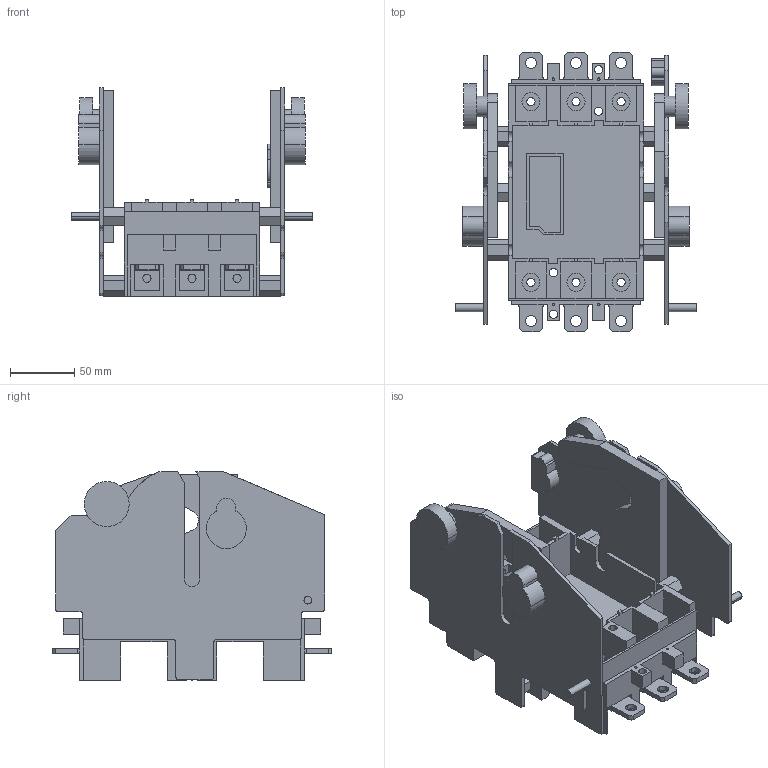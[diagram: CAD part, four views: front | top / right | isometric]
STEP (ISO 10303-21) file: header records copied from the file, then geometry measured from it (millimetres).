
FILE_DESCRIPTION (( 'STEP AP214' ), '1' );
FILE_NAME ('Êîìïëåêò äëÿ âûäâèæíîãî èñïîëíåíèÿ OptiMat D100, D160, D250 âåðòèêàëüíûå âûâîäû.STEP', '2023-05-03T10:26:17', ( '' ), ( '' ), 'SwSTEP 2.0', 'SolidWorks 2018', '' );
FILE_SCHEMA (( 'AUTOMOTIVE_DESIGN' ));
Length unit declared in the file: millimetre
Products named in the file (1): Êîìïëåêò äëÿ âûäâèæíîãî èñïîëíåíèÿ OptiMat D100, D160, D250 âåðòèêàëüíûå âûâîäû
Bounding box: 187.8 x 217.4 x 162.2 mm (x, y, z)
Volume: 707308.5 mm3; surface area: 293472.7 mm2
Topology: 7 solids, 7 shells, 584 faces, 1653 edges, 1086 vertices
Faces by surface type: plane 440, cylinder 144
Entity records: 25429 total; most frequent: CARTESIAN_POINT 3330, ORIENTED_EDGE 3306, DIRECTION 3117, EDGE_CURVE 1653, LINE 1355, VECTOR 1355, VERTEX_POINT 1086, AXIS2_PLACEMENT_3D 881
